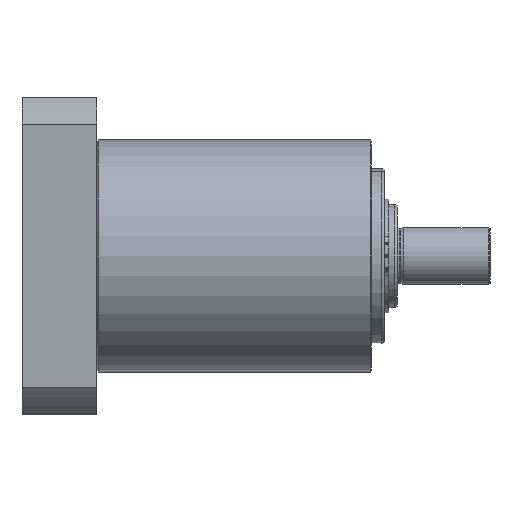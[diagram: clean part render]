
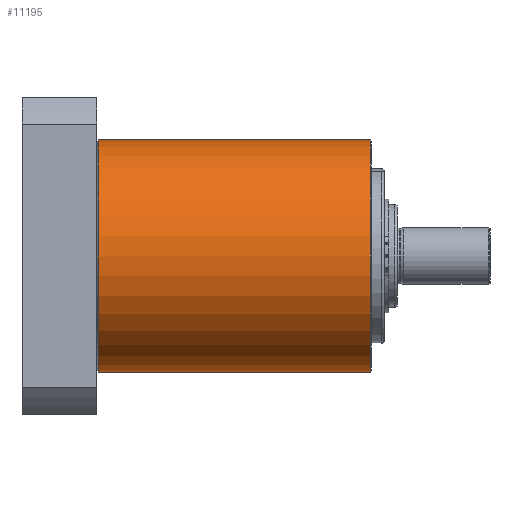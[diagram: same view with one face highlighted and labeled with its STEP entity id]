
A CAD part, front view. The second image highlights one B-rep face of the part: STEP entity #11195.
In plain terms, the highlighted cylindrical face has radius 45 mm (diameter 90 mm), a partial arc.
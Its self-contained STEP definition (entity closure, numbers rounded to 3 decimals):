
#459 = ORIENTED_EDGE ( 'NONE', *, *, #12282, .T. ) ;
#720 = DIRECTION ( 'NONE',  ( 0., 0., -1. ) ) ;
#855 = CARTESIAN_POINT ( 'NONE',  ( 106., 0., 0. ) ) ;
#1330 = LINE ( 'NONE', #8817, #10876 ) ;
#1430 = VERTEX_POINT ( 'NONE', #12429 ) ;
#2888 = CARTESIAN_POINT ( 'NONE',  ( 52.368, 0., -45. ) ) ;
#3321 = CARTESIAN_POINT ( 'NONE',  ( 106., 0., -45. ) ) ;
#3442 = VERTEX_POINT ( 'NONE', #3321 ) ;
#3637 = EDGE_CURVE ( 'NONE', #1430, #7120, #13741, .T. ) ;
#4087 = AXIS2_PLACEMENT_3D ( 'NONE', #12227, #10187, #720 ) ;
#4364 = ORIENTED_EDGE ( 'NONE', *, *, #12835, .T. ) ;
#4776 = EDGE_CURVE ( 'NONE', #1430, #10917, #1330, .T. ) ;
#5870 = DIRECTION ( 'NONE',  ( 0., 0., 1. ) ) ;
#6142 = EDGE_LOOP ( 'NONE', ( #7058, #6190, #4364, #459 ) ) ;
#6190 = ORIENTED_EDGE ( 'NONE', *, *, #3637, .T. ) ;
#6324 = DIRECTION ( 'NONE',  ( 1., 0., 0. ) ) ;
#7058 = ORIENTED_EDGE ( 'NONE', *, *, #4776, .F. ) ;
#7120 = VERTEX_POINT ( 'NONE', #11917 ) ;
#7553 = DIRECTION ( 'NONE',  ( 1., 0., 0. ) ) ;
#7692 = AXIS2_PLACEMENT_3D ( 'NONE', #11652, #10600, #12445 ) ;
#7943 = CYLINDRICAL_SURFACE ( 'NONE', #4087, 45. ) ;
#8817 = CARTESIAN_POINT ( 'NONE',  ( 52.368, 0., 45. ) ) ;
#9193 = FACE_OUTER_BOUND ( 'NONE', #6142, .T. ) ;
#9343 = VECTOR ( 'NONE', #6324, 1000. ) ;
#10187 = DIRECTION ( 'NONE',  ( 1., 0., 0. ) ) ;
#10600 = DIRECTION ( 'NONE',  ( 1., 0., 0. ) ) ;
#10876 = VECTOR ( 'NONE', #7553, 1000. ) ;
#10917 = VERTEX_POINT ( 'NONE', #11118 ) ;
#11118 = CARTESIAN_POINT ( 'NONE',  ( 106., 0., 45. ) ) ;
#11195 = ADVANCED_FACE ( 'NONE', ( #9193 ), #7943, .T. ) ;
#11602 = LINE ( 'NONE', #2888, #9343 ) ;
#11652 = CARTESIAN_POINT ( 'NONE',  ( 0.5, 0., 0. ) ) ;
#11917 = CARTESIAN_POINT ( 'NONE',  ( 0.5, 0., -45. ) ) ;
#12226 = AXIS2_PLACEMENT_3D ( 'NONE', #855, #12351, #5870 ) ;
#12227 = CARTESIAN_POINT ( 'NONE',  ( 52.368, 0., 0. ) ) ;
#12282 = EDGE_CURVE ( 'NONE', #3442, #10917, #12890, .T. ) ;
#12351 = DIRECTION ( 'NONE',  ( -1., 0., 0. ) ) ;
#12429 = CARTESIAN_POINT ( 'NONE',  ( 0.5, 0., 45. ) ) ;
#12445 = DIRECTION ( 'NONE',  ( 0., 0., -1. ) ) ;
#12835 = EDGE_CURVE ( 'NONE', #7120, #3442, #11602, .T. ) ;
#12890 = CIRCLE ( 'NONE', #12226, 45. ) ;
#13741 = CIRCLE ( 'NONE', #7692, 45. ) ;
